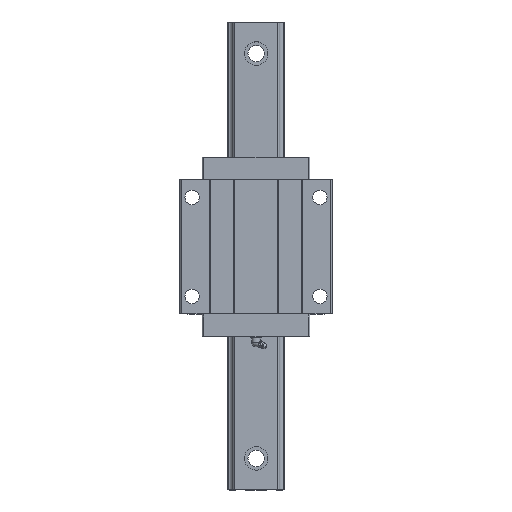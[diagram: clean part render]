
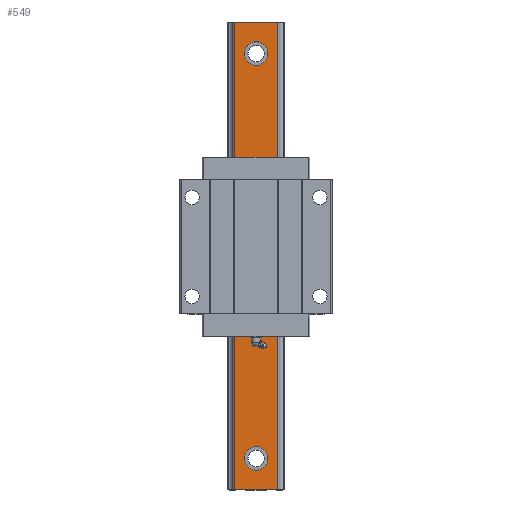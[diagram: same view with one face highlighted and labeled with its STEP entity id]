
A CAD part, top view. The second image highlights one B-rep face of the part: STEP entity #549.
In plain terms, the highlighted planar face has unit normal (0, 0, 1).
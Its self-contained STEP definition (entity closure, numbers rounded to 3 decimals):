
#246=FACE_BOUND('',#1205,.T.);
#247=FACE_BOUND('',#1206,.T.);
#248=FACE_BOUND('',#1207,.T.);
#249=FACE_BOUND('',#1208,.T.);
#350=CIRCLE('',#4716,13.);
#351=CIRCLE('',#4717,13.);
#352=CIRCLE('',#4718,13.);
#353=CIRCLE('',#4719,13.);
#549=ADVANCED_FACE('',(#246,#247,#248,#249,#971),#803,.F.);
#803=PLANE('',#4720);
#971=FACE_OUTER_BOUND('',#1209,.T.);
#1205=EDGE_LOOP('',(#1595));
#1206=EDGE_LOOP('',(#1596));
#1207=EDGE_LOOP('',(#1597));
#1208=EDGE_LOOP('',(#1598));
#1209=EDGE_LOOP('',(#1599,#1600,#1601,#1602));
#1595=ORIENTED_EDGE('',*,*,#3296,.T.);
#1596=ORIENTED_EDGE('',*,*,#3297,.T.);
#1597=ORIENTED_EDGE('',*,*,#3298,.T.);
#1598=ORIENTED_EDGE('',*,*,#3299,.T.);
#1599=ORIENTED_EDGE('',*,*,#3300,.T.);
#1600=ORIENTED_EDGE('',*,*,#3295,.F.);
#1601=ORIENTED_EDGE('',*,*,#3301,.F.);
#1602=ORIENTED_EDGE('',*,*,#3302,.T.);
#2835=VERTEX_POINT('',#6604);
#2836=VERTEX_POINT('',#6606);
#2837=VERTEX_POINT('',#6610);
#2838=VERTEX_POINT('',#6612);
#2839=VERTEX_POINT('',#6614);
#2840=VERTEX_POINT('',#6616);
#2841=VERTEX_POINT('',#6618);
#2842=VERTEX_POINT('',#6620);
#3295=EDGE_CURVE('',#2836,#2835,#3923,.T.);
#3296=EDGE_CURVE('',#2837,#2837,#350,.T.);
#3297=EDGE_CURVE('',#2838,#2838,#351,.T.);
#3298=EDGE_CURVE('',#2839,#2839,#352,.T.);
#3299=EDGE_CURVE('',#2840,#2840,#353,.T.);
#3300=EDGE_CURVE('',#2841,#2835,#3924,.T.);
#3301=EDGE_CURVE('',#2842,#2836,#3925,.T.);
#3302=EDGE_CURVE('',#2842,#2841,#3926,.T.);
#3923=LINE('',#6607,#4329);
#3924=LINE('',#6617,#4330);
#3925=LINE('',#6619,#4331);
#3926=LINE('',#6621,#4332);
#4329=VECTOR('',#5267,1.);
#4330=VECTOR('',#5278,1.);
#4331=VECTOR('',#5279,1.);
#4332=VECTOR('',#5280,1.);
#4716=AXIS2_PLACEMENT_3D('',#6609,#5270,#5271);
#4717=AXIS2_PLACEMENT_3D('',#6611,#5272,#5273);
#4718=AXIS2_PLACEMENT_3D('',#6613,#5274,#5275);
#4719=AXIS2_PLACEMENT_3D('',#6615,#5276,#5277);
#4720=AXIS2_PLACEMENT_3D('',#6622,#5281,#5282);
#5267=DIRECTION('',(0.,-1.,0.));
#5270=DIRECTION('',(0.,0.,-1.));
#5271=DIRECTION('',(-1.,0.,0.));
#5272=DIRECTION('',(0.,0.,-1.));
#5273=DIRECTION('',(-1.,0.,0.));
#5274=DIRECTION('',(0.,0.,-1.));
#5275=DIRECTION('',(-1.,0.,0.));
#5276=DIRECTION('',(0.,0.,-1.));
#5277=DIRECTION('',(-1.,0.,0.));
#5278=DIRECTION('',(1.,0.,0.));
#5279=DIRECTION('',(1.,0.,0.));
#5280=DIRECTION('',(0.,-1.,0.));
#5281=DIRECTION('',(0.,0.,-1.));
#5282=DIRECTION('',(-1.,0.,0.));
#6604=CARTESIAN_POINT('',(24.212,15.,37.9));
#6606=CARTESIAN_POINT('',(24.212,535.,37.9));
#6607=CARTESIAN_POINT('',(24.212,535.,37.9));
#6609=CARTESIAN_POINT('',(0.1,500.,37.9));
#6610=CARTESIAN_POINT('',(-12.9,500.,37.9));
#6611=CARTESIAN_POINT('',(0.1,350.,37.9));
#6612=CARTESIAN_POINT('',(-12.9,350.,37.9));
#6613=CARTESIAN_POINT('',(0.1,200.,37.9));
#6614=CARTESIAN_POINT('',(-12.9,200.,37.9));
#6615=CARTESIAN_POINT('',(0.1,50.,37.9));
#6616=CARTESIAN_POINT('',(-12.9,50.,37.9));
#6617=CARTESIAN_POINT('',(-24.212,15.,37.9));
#6618=CARTESIAN_POINT('',(-24.212,15.,37.9));
#6619=CARTESIAN_POINT('',(-24.212,535.,37.9));
#6620=CARTESIAN_POINT('',(-24.212,535.,37.9));
#6621=CARTESIAN_POINT('',(-24.212,535.,37.9));
#6622=CARTESIAN_POINT('',(-24.212,535.,37.9));
